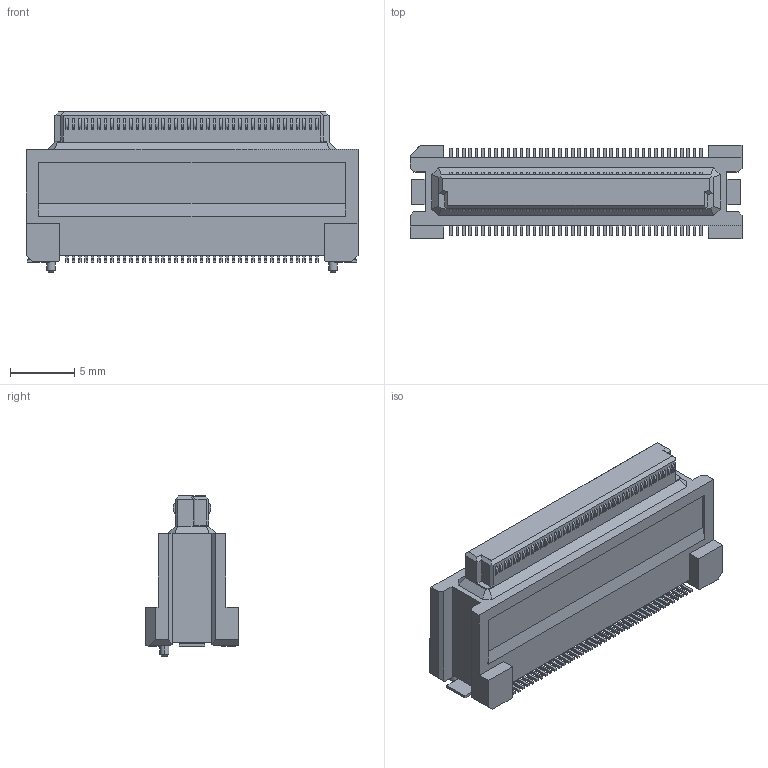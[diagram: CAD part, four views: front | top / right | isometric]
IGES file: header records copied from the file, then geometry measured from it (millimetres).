
Start section: Elysium IGES Interface
Global section: file name: C:\Users\1354\Desktop\DY11-080FS-3.igs; native system: Creo Elements/Direct Modeling 19.0F  14-Feb-2017; preprocessor: Creo Element/Direct IGES_3D V2.2; author: Unknown; organization: Unknown; date: 20171128.092659; units: millimetre
Bounding box: 25.9 x 7.3 x 12.5 mm (x, y, z)
Volume: 1184.1 mm3; surface area: 1163.1 mm2
Topology: 1 solids, 1 shells, 1200 faces, 3293 edges, 2182 vertices
Faces by surface type: bspline 1200
